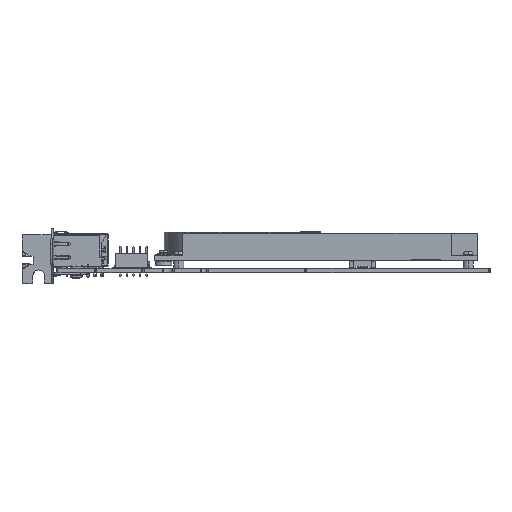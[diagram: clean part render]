
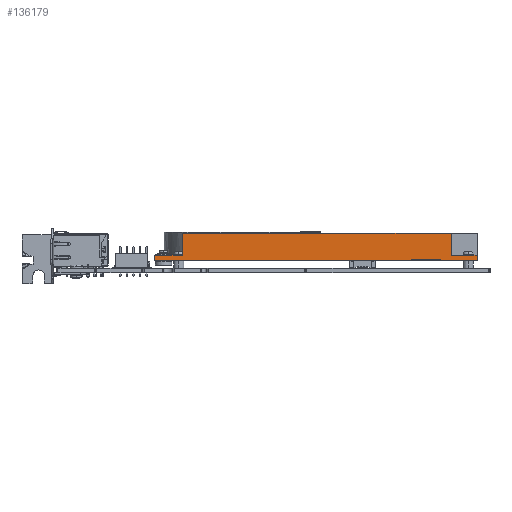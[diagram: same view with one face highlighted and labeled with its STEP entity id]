
A CAD part, left-side view. The second image highlights one B-rep face of the part: STEP entity #136179.
In plain terms, the highlighted planar face has unit normal (-1, 0, 0) as drawn and (0, 0, -1) by its records, which use the part's own axes.
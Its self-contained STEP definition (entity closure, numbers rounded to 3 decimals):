
#132040=DIRECTION('',(1.,0.,0.));
#132041=VECTOR('',#132040,10.8);
#132042=CARTESIAN_POINT('',(559.71,505.793,454.011));
#132043=LINE('',#132042,#132041);
#132103=DIRECTION('',(0.,-1.,0.));
#132104=VECTOR('',#132103,2.);
#132105=CARTESIAN_POINT('',(570.51,505.793,454.011));
#132106=LINE('',#132105,#132104);
#132257=DIRECTION('',(-1.,0.,0.));
#132258=VECTOR('',#132257,14.339);
#132259=CARTESIAN_POINT('',(460.003,503.793,454.011));
#132260=LINE('',#132259,#132258);
#132297=DIRECTION('',(-1.,0.,0.));
#132298=VECTOR('',#132297,99.657);
#132299=CARTESIAN_POINT('',(570.51,503.793,454.011));
#132300=LINE('',#132299,#132298);
#132560=DIRECTION('',(0.,-1.,0.));
#132561=VECTOR('',#132560,0.5);
#132562=CARTESIAN_POINT('',(460.003,504.293,454.011));
#132563=LINE('',#132562,#132561);
#132612=DIRECTION('',(0.,1.,0.));
#132613=VECTOR('',#132612,0.5);
#132614=CARTESIAN_POINT('',(470.853,503.793,454.011));
#132615=LINE('',#132614,#132613);
#132616=DIRECTION('',(1.,0.,0.));
#132617=VECTOR('',#132616,10.85);
#132618=CARTESIAN_POINT('',(460.003,504.293,454.011));
#132619=LINE('',#132618,#132617);
#132628=DIRECTION('',(0.,-1.,0.));
#132629=VECTOR('',#132628,8.6);
#132630=CARTESIAN_POINT('',(559.71,514.393,454.011));
#132631=LINE('',#132630,#132629);
#132640=DIRECTION('',(1.,0.,0.));
#132641=VECTOR('',#132640,104.025);
#132642=CARTESIAN_POINT('',(455.685,514.393,454.011));
#132643=LINE('',#132642,#132641);
#132644=DIRECTION('',(0.,1.,0.));
#132645=VECTOR('',#132644,8.6);
#132646=CARTESIAN_POINT('',(455.685,505.793,454.011));
#132647=LINE('',#132646,#132645);
#132672=DIRECTION('',(1.,0.,0.));
#132673=VECTOR('',#132672,10.02);
#132674=CARTESIAN_POINT('',(445.665,505.793,454.011));
#132675=LINE('',#132674,#132673);
#133531=DIRECTION('',(0.,1.,0.));
#133532=VECTOR('',#133531,2.);
#133533=CARTESIAN_POINT('',(445.665,503.793,454.011));
#133534=LINE('',#133533,#133532);
#134715=CARTESIAN_POINT('',(559.71,505.793,454.011));
#134716=VERTEX_POINT('',#134715);
#134717=CARTESIAN_POINT('',(570.51,505.793,454.011));
#134718=VERTEX_POINT('',#134717);
#134743=CARTESIAN_POINT('',(570.51,503.793,454.011));
#134744=VERTEX_POINT('',#134743);
#134820=CARTESIAN_POINT('',(460.003,503.793,454.011));
#134822=VERTEX_POINT('',#134820);
#134823=CARTESIAN_POINT('',(445.665,503.793,454.011));
#134824=VERTEX_POINT('',#134823);
#134841=CARTESIAN_POINT('',(470.853,503.793,454.011));
#134842=VERTEX_POINT('',#134841);
#134983=CARTESIAN_POINT('',(460.003,504.293,454.011));
#134984=VERTEX_POINT('',#134983);
#134993=CARTESIAN_POINT('',(470.853,504.293,454.011));
#134994=VERTEX_POINT('',#134993);
#134997=CARTESIAN_POINT('',(559.71,514.393,454.011));
#134998=VERTEX_POINT('',#134997);
#134999=CARTESIAN_POINT('',(455.685,514.393,454.011));
#135000=VERTEX_POINT('',#134999);
#135001=CARTESIAN_POINT('',(455.685,505.793,454.011));
#135002=VERTEX_POINT('',#135001);
#135003=CARTESIAN_POINT('',(445.665,505.793,454.011));
#135004=VERTEX_POINT('',#135003);
#136155=CARTESIAN_POINT('',(507.697,509.593,454.011));
#136156=DIRECTION('',(0.,0.,1.));
#136157=DIRECTION('',(1.,0.,0.));
#136158=AXIS2_PLACEMENT_3D('',#136155,#136156,#136157);
#136159=PLANE('',#136158);
#136160=ORIENTED_EDGE('',*,*,#136074,.F.);
#136161=ORIENTED_EDGE('',*,*,#136116,.T.);
#136162=ORIENTED_EDGE('',*,*,#136149,.F.);
#136163=ORIENTED_EDGE('',*,*,#135893,.F.);
#136164=ORIENTED_EDGE('',*,*,#135687,.F.);
#136165=ORIENTED_EDGE('',*,*,#135598,.F.);
#136167=ORIENTED_EDGE('',*,*,#136166,.F.);
#136169=ORIENTED_EDGE('',*,*,#136168,.F.);
#136171=ORIENTED_EDGE('',*,*,#136170,.F.);
#136173=ORIENTED_EDGE('',*,*,#136172,.F.);
#136175=ORIENTED_EDGE('',*,*,#136174,.F.);
#136176=ORIENTED_EDGE('',*,*,#135871,.F.);
#136177=EDGE_LOOP('',(#136160,#136161,#136162,#136163,#136164,#136165,#136167,
#136169,#136171,#136173,#136175,#136176));
#136178=FACE_OUTER_BOUND('',#136177,.F.);
#136179=ADVANCED_FACE('',(#136178),#136159,.F.);
#135598=EDGE_CURVE('',#134716,#134718,#132043,.T.);
#135687=EDGE_CURVE('',#134718,#134744,#132106,.T.);
#135871=EDGE_CURVE('',#134822,#134824,#132260,.T.);
#135893=EDGE_CURVE('',#134744,#134842,#132300,.T.);
#136074=EDGE_CURVE('',#134984,#134822,#132563,.T.);
#136116=EDGE_CURVE('',#134984,#134994,#132619,.T.);
#136149=EDGE_CURVE('',#134842,#134994,#132615,.T.);
#136166=EDGE_CURVE('',#134998,#134716,#132631,.T.);
#136168=EDGE_CURVE('',#135000,#134998,#132643,.T.);
#136170=EDGE_CURVE('',#135002,#135000,#132647,.T.);
#136172=EDGE_CURVE('',#135004,#135002,#132675,.T.);
#136174=EDGE_CURVE('',#134824,#135004,#133534,.T.);
